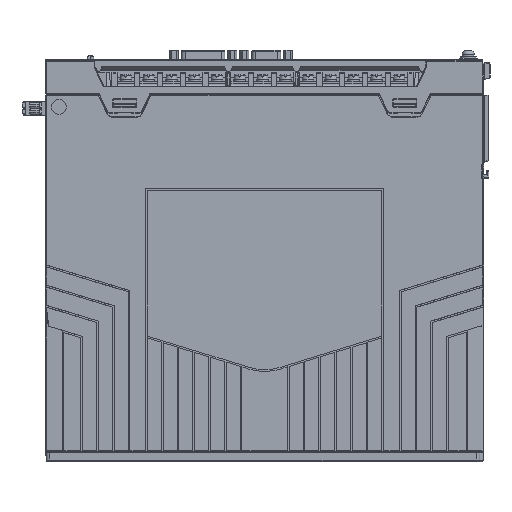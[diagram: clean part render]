
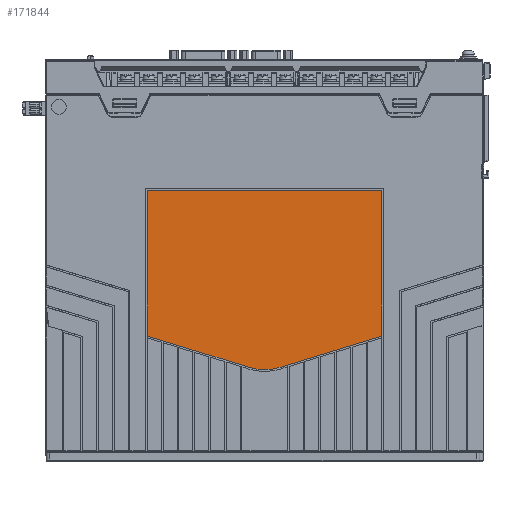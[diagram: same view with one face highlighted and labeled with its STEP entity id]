
A CAD part, left-side view. The second image highlights one B-rep face of the part: STEP entity #171844.
In plain terms, the highlighted planar face has unit normal (-1, 0, 0).
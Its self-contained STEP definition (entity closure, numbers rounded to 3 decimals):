
#39544=CARTESIAN_POINT('',(-47.4,0.,-127.343));
#39545=DIRECTION('',(1.,0.,0.));
#39546=DIRECTION('',(0.,-0.292,-0.956));
#39547=AXIS2_PLACEMENT_3D('',#39544,#39545,#39546);
#39549=DIRECTION('',(0.,0.956,0.292));
#39550=VECTOR('',#39549,60.889);
#39551=CARTESIAN_POINT('',(-47.4,8.771,-156.032));
#39552=LINE('',#39551,#39550);
#39553=DIRECTION('',(0.,0.,1.));
#39554=VECTOR('',#39553,83.26);
#39555=CARTESIAN_POINT('',(-47.4,67.,-138.23));
#39556=LINE('',#39555,#39554);
#39557=DIRECTION('',(0.,-1.,0.));
#39558=VECTOR('',#39557,134.);
#39559=CARTESIAN_POINT('',(-47.4,67.,-54.97));
#39560=LINE('',#39559,#39558);
#39561=DIRECTION('',(0.,0.,-1.));
#39562=VECTOR('',#39561,83.26);
#39563=CARTESIAN_POINT('',(-47.4,-67.,-54.97));
#39564=LINE('',#39563,#39562);
#39565=DIRECTION('',(0.,0.956,-0.292));
#39566=VECTOR('',#39565,60.889);
#39567=CARTESIAN_POINT('',(-47.4,-67.,-138.23));
#39568=LINE('',#39567,#39566);
#86939=CARTESIAN_POINT('',(-47.4,8.771,-156.032));
#86940=VERTEX_POINT('',#86939);
#86941=CARTESIAN_POINT('',(-47.4,67.,-138.23));
#86942=VERTEX_POINT('',#86941);
#86943=CARTESIAN_POINT('',(-47.4,-8.771,-156.032));
#86944=VERTEX_POINT('',#86943);
#86945=CARTESIAN_POINT('',(-47.4,67.,-54.97));
#86946=VERTEX_POINT('',#86945);
#86947=CARTESIAN_POINT('',(-47.4,-67.,-54.97));
#86948=VERTEX_POINT('',#86947);
#86949=CARTESIAN_POINT('',(-47.4,-67.,-138.23));
#86950=VERTEX_POINT('',#86949);
#171827=CARTESIAN_POINT('',(-47.4,0.,-204.5));
#171828=DIRECTION('',(-1.,0.,0.));
#171829=DIRECTION('',(0.,-1.,0.));
#171830=AXIS2_PLACEMENT_3D('',#171827,#171828,#171829);
#171831=PLANE('',#171830);
#171832=ORIENTED_EDGE('',*,*,#171819,.T.);
#171833=ORIENTED_EDGE('',*,*,#171808,.T.);
#171835=ORIENTED_EDGE('',*,*,#171834,.T.);
#171837=ORIENTED_EDGE('',*,*,#171836,.T.);
#171839=ORIENTED_EDGE('',*,*,#171838,.T.);
#171841=ORIENTED_EDGE('',*,*,#171840,.T.);
#171842=EDGE_LOOP('',(#171832,#171833,#171835,#171837,#171839,#171841));
#171843=FACE_OUTER_BOUND('',#171842,.F.);
#39548=CIRCLE('',#39547,30.);
#171808=EDGE_CURVE('',#86940,#86942,#39552,.T.);
#171819=EDGE_CURVE('',#86944,#86940,#39548,.T.);
#171834=EDGE_CURVE('',#86942,#86946,#39556,.T.);
#171836=EDGE_CURVE('',#86946,#86948,#39560,.T.);
#171838=EDGE_CURVE('',#86948,#86950,#39564,.T.);
#171840=EDGE_CURVE('',#86950,#86944,#39568,.T.);
#171844=ADVANCED_FACE('',(#171843),#171831,.T.);
